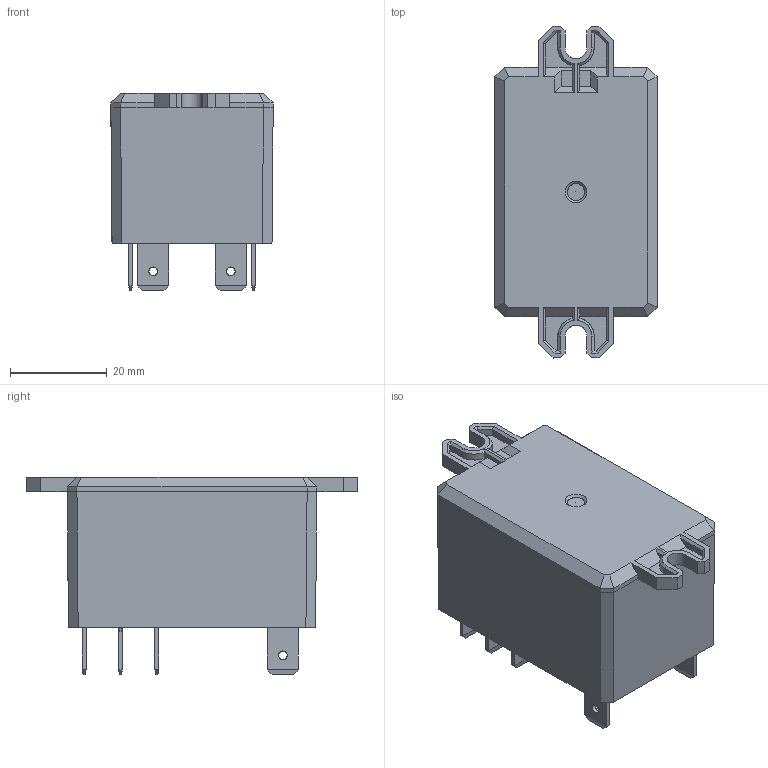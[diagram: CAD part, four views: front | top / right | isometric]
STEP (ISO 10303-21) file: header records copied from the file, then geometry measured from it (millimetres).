
FILE_DESCRIPTION(('STEP AP214'),'2;1');
FILE_NAME('6682.stp','2011-04-21T16:46:45',(''),(''),'2007.1.106','THINKDESIGN','');
FILE_SCHEMA(('AUTOMOTIVE_DESIGN'));
Length unit declared in the file: millimetre
Products named in the file (1): None
Bounding box: 33.5 x 68.5 x 40.75 mm (x, y, z)
Surface area: 11172.9 mm2 (no closed solid volume)
Topology: 0 solids, 0 shells, 348 faces, 1868 edges, 1864 vertices
Faces by surface type: plane 214, bspline 104, cylinder 30
Full cylindrical faces by diameter (mm): 1.8 x8
Entity records: 19374 total; most frequent: CARTESIAN_POINT 6654, DIRECTION 1898, COMPOSITE_CURVE_SEGMENT 1867, TRIMMED_CURVE 1334, VECTOR 1290, LINE 1290, OUTER_BOUNDARY_CURVE 348, CURVE_BOUNDED_SURFACE 348
